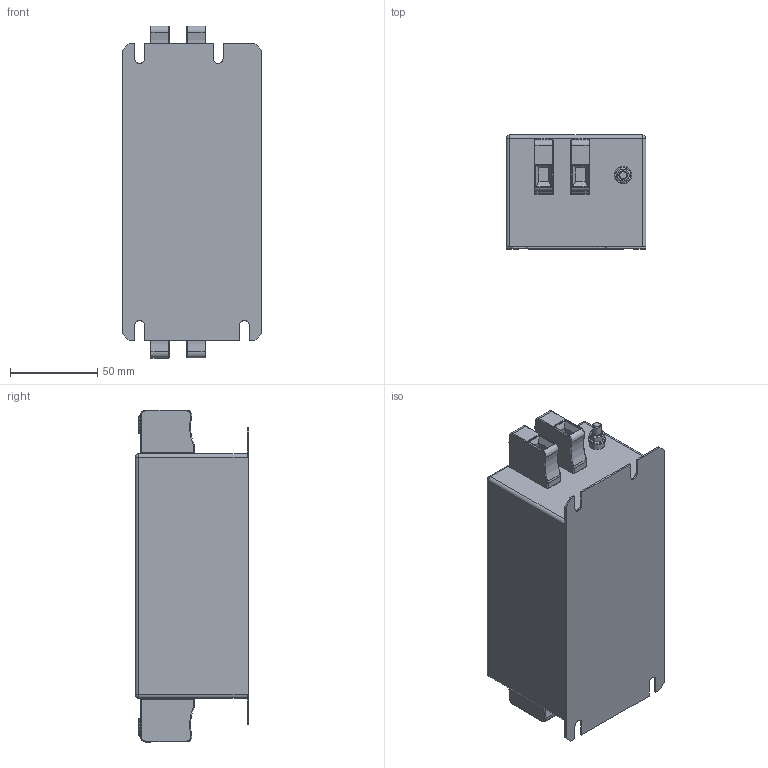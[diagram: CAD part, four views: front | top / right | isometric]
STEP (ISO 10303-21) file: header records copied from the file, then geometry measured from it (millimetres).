
FILE_DESCRIPTION((''),'2;1');
FILE_NAME('C:\Users\Samuel.Meier\Desktop\Harald\FN2200-25-33.stp','2012-08-24T13:43:56',('Samuel.Meier'),(''),'Autodesk Inventor 2010','Autodesk Inventor 2010','');
FILE_SCHEMA(('AUTOMOTIVE_DESIGN { 1 2 10303 214 0 1 1 1 }'));
Length unit declared in the file: millimetre
Products named in the file (1): Bauteil13
Bounding box: 80 x 65 x 190 mm (x, y, z)
Volume: 760806 mm3; surface area: 64961.2 mm2
Topology: 1 solids, 3 shells, 382 faces, 912 edges, 536 vertices
Faces by surface type: plane 186, cylinder 118, torus 48, sphere 20, cone 10
Full cylindrical faces by diameter (mm): 5 x4, 5.1 x4, 5.3 x2, 8.5 x2, 10 x6
Entity records: 11039 total; most frequent: CARTESIAN_POINT 1931, DIRECTION 1902, ORIENTED_EDGE 1700, EDGE_CURVE 850, AXIS2_PLACEMENT_3D 701, VERTEX_POINT 530, VECTOR 500, LINE 500
